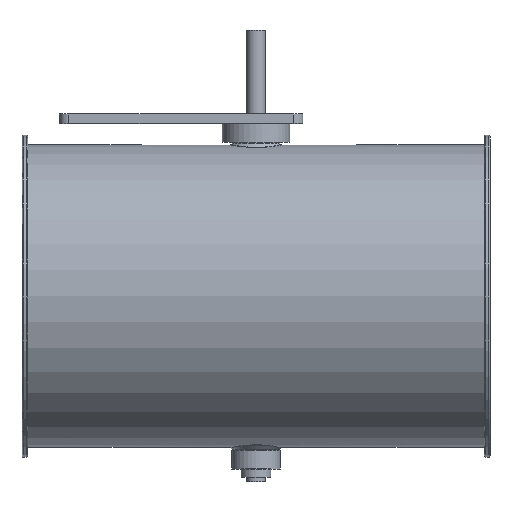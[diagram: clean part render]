
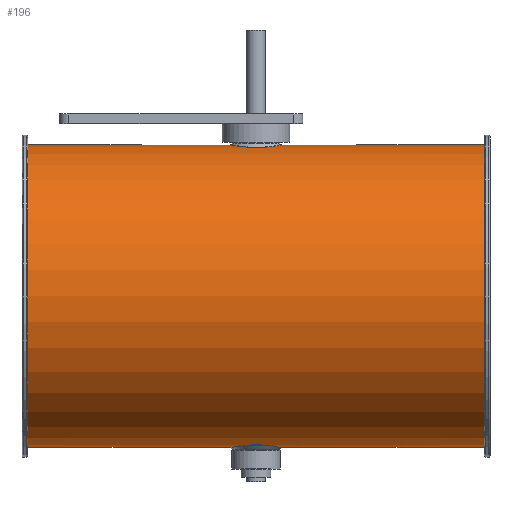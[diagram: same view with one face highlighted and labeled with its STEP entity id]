
A CAD part, top view. The second image highlights one B-rep face of the part: STEP entity #196.
In plain terms, the highlighted cylindrical face has radius 80.8 mm (diameter 161.6 mm), a full revolution.
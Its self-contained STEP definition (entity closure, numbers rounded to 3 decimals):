
#113=B_SPLINE_CURVE_WITH_KNOTS('',3,(#1610,#1611,#1612,#1613,#1614,#1615,
#1616,#1617,#1618,#1619,#1620,#1621,#1622,#1623,#1624,#1625,#1626,#1627,
#1628,#1629,#1630,#1631),.UNSPECIFIED.,.T.,.F.,(2,2,2,2,2,2,2,2,2,2,2,2,
2),(-0.063,0.,0.125,0.25,0.375,0.437,
0.5,0.625,0.75,0.875,0.938,1.,1.125),
 .UNSPECIFIED.);
#114=B_SPLINE_CURVE_WITH_KNOTS('',3,(#1633,#1634,#1635,#1636,#1637,#1638,
#1639,#1640,#1641,#1642,#1643,#1644,#1645,#1646,#1647,#1648,#1649,#1650,
#1651,#1652,#1653,#1654),.UNSPECIFIED.,.T.,.F.,(2,2,2,2,2,2,2,2,2,2,2,2,
2),(-0.125,0.,0.062,0.125,0.25,0.375,0.5,0.563,
0.625,0.75,0.875,1.,1.063),.UNSPECIFIED.);
#145=CYLINDRICAL_SURFACE('',#1117,80.8);
#196=ADVANCED_FACE('',(#351,#352,#353,#354),#145,.T.);
#351=FACE_BOUND('',#493,.T.);
#352=FACE_BOUND('',#494,.T.);
#353=FACE_BOUND('',#495,.T.);
#354=FACE_BOUND('',#496,.T.);
#493=EDGE_LOOP('',(#679));
#494=EDGE_LOOP('',(#680));
#495=EDGE_LOOP('',(#681));
#496=EDGE_LOOP('',(#682));
#679=ORIENTED_EDGE('',*,*,#941,.T.);
#680=ORIENTED_EDGE('',*,*,#942,.T.);
#681=ORIENTED_EDGE('',*,*,#943,.T.);
#682=ORIENTED_EDGE('',*,*,#944,.F.);
#843=VERTEX_POINT('',#1609);
#844=VERTEX_POINT('',#1632);
#845=VERTEX_POINT('',#1655);
#846=VERTEX_POINT('',#1657);
#941=EDGE_CURVE('',#843,#843,#1027,.T.);
#942=EDGE_CURVE('',#844,#844,#113,.T.);
#943=EDGE_CURVE('',#845,#845,#114,.T.);
#944=EDGE_CURVE('',#846,#846,#1028,.T.);
#1027=CIRCLE('',#1115,80.8);
#1028=CIRCLE('',#1116,80.8);
#1115=AXIS2_PLACEMENT_3D('',#1608,#1308,#1309);
#1116=AXIS2_PLACEMENT_3D('',#1656,#1310,#1311);
#1117=AXIS2_PLACEMENT_3D('',#1658,#1312,#1313);
#1308=DIRECTION('',(1.,0.,0.));
#1309=DIRECTION('',(0.,0.,1.));
#1310=DIRECTION('',(1.,0.,0.));
#1311=DIRECTION('',(0.,0.,1.));
#1312=DIRECTION('',(1.,0.,0.));
#1313=DIRECTION('',(0.,0.,-1.));
#1608=CARTESIAN_POINT('',(-122.,-38.3,125.));
#1609=CARTESIAN_POINT('',(-122.,-38.3,205.8));
#1610=CARTESIAN_POINT('',(-2.062,-117.599,109.488));
#1611=CARTESIAN_POINT('',(-7.671,-117.937,111.287));
#1612=CARTESIAN_POINT('',(-10.71,-118.443,114.144));
#1613=CARTESIAN_POINT('',(-14.158,-119.079,121.063));
#1614=CARTESIAN_POINT('',(-14.603,-119.187,125.197));
#1615=CARTESIAN_POINT('',(-12.776,-118.819,132.714));
#1616=CARTESIAN_POINT('',(-10.485,-118.352,136.179));
#1617=CARTESIAN_POINT('',(-5.655,-117.819,139.371));
#1618=CARTESIAN_POINT('',(-3.811,-117.676,140.104));
#1619=CARTESIAN_POINT('',(0.052,-117.565,140.679));
#1620=CARTESIAN_POINT('',(2.042,-117.599,140.514));
#1621=CARTESIAN_POINT('',(7.634,-117.934,138.733));
#1622=CARTESIAN_POINT('',(10.688,-118.439,135.895));
#1623=CARTESIAN_POINT('',(14.17,-119.081,128.919));
#1624=CARTESIAN_POINT('',(14.607,-119.188,124.81));
#1625=CARTESIAN_POINT('',(12.77,-118.818,117.267));
#1626=CARTESIAN_POINT('',(10.468,-118.349,113.802));
#1627=CARTESIAN_POINT('',(5.638,-117.818,110.621));
#1628=CARTESIAN_POINT('',(3.774,-117.675,109.887));
#1629=CARTESIAN_POINT('',(-0.058,-117.565,109.324));
#1630=CARTESIAN_POINT('',(-2.062,-117.599,109.488));
#1631=CARTESIAN_POINT('',(-7.671,-117.937,111.287));
#1632=CARTESIAN_POINT('',(-3.932,-117.712,110.088));
#1633=CARTESIAN_POINT('',(-7.672,41.337,111.288));
#1634=CARTESIAN_POINT('',(-2.062,40.999,109.488));
#1635=CARTESIAN_POINT('',(-0.076,40.965,109.323));
#1636=CARTESIAN_POINT('',(3.765,41.074,109.884));
#1637=CARTESIAN_POINT('',(5.623,41.216,110.612));
#1638=CARTESIAN_POINT('',(10.487,41.751,113.813));
#1639=CARTESIAN_POINT('',(12.778,42.219,117.279));
#1640=CARTESIAN_POINT('',(14.609,42.588,124.842));
#1641=CARTESIAN_POINT('',(14.155,42.478,128.954));
#1642=CARTESIAN_POINT('',(10.699,41.841,135.869));
#1643=CARTESIAN_POINT('',(7.658,41.337,138.712));
#1644=CARTESIAN_POINT('',(2.088,41.001,140.505));
#1645=CARTESIAN_POINT('',(0.12,40.964,140.68));
#1646=CARTESIAN_POINT('',(-3.773,41.074,140.118));
#1647=CARTESIAN_POINT('',(-5.62,41.216,139.389));
#1648=CARTESIAN_POINT('',(-10.475,41.749,136.197));
#1649=CARTESIAN_POINT('',(-12.769,42.218,132.74));
#1650=CARTESIAN_POINT('',(-14.61,42.589,125.171));
#1651=CARTESIAN_POINT('',(-14.173,42.481,121.088));
#1652=CARTESIAN_POINT('',(-10.689,41.839,114.106));
#1653=CARTESIAN_POINT('',(-7.672,41.337,111.288));
#1654=CARTESIAN_POINT('',(-2.062,40.999,109.488));
#1655=CARTESIAN_POINT('',(-3.932,41.112,110.088));
#1656=CARTESIAN_POINT('',(122.,-38.3,125.));
#1657=CARTESIAN_POINT('',(122.,-38.3,205.8));
#1658=CARTESIAN_POINT('',(-125.,-38.3,125.));
